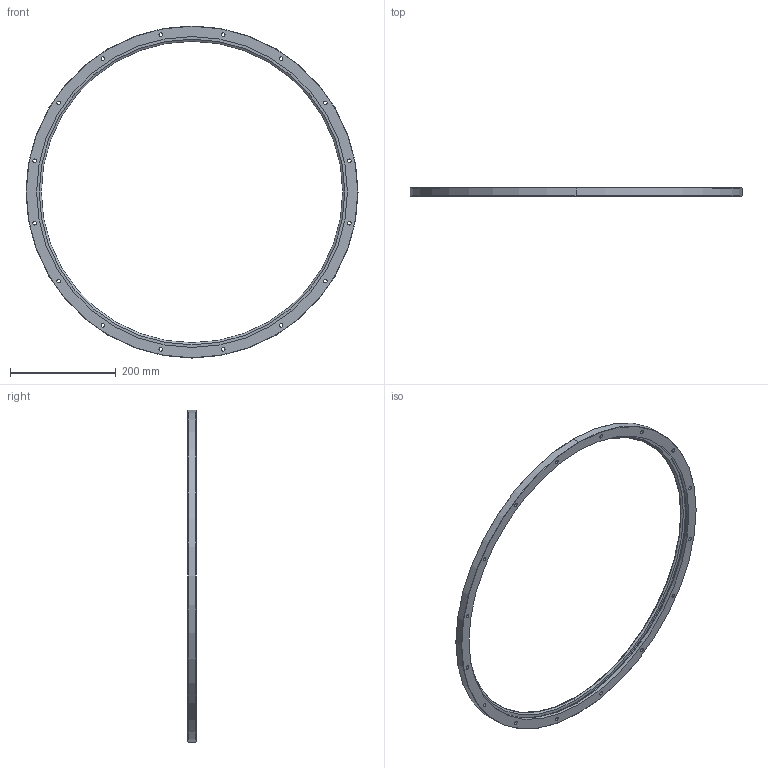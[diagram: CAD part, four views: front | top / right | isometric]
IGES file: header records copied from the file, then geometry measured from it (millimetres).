
Start section: 3D InterOp IGES (v. 2020 1.0.1), Spatial Corp. Copyright (c) 1999-2017.
Global section: file name: rim_627_r360.igs; native system: Spatial Corp.; preprocessor: 3D InterOp ACIS/IGES; author: TraceParts; organization: TraceParts S.A.; date: 20220624.063011; units: millimetre
Bounding box: 627.5 x 15.5 x 627.5 mm (x, y, z)
Surface area: 167414 mm2 (no closed solid volume)
Topology: 0 solids, 0 shells, 102 faces, 472 edges, 472 vertices
Faces by surface type: revolution 82, extrusion 20
